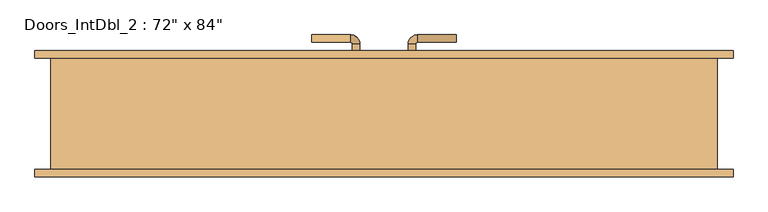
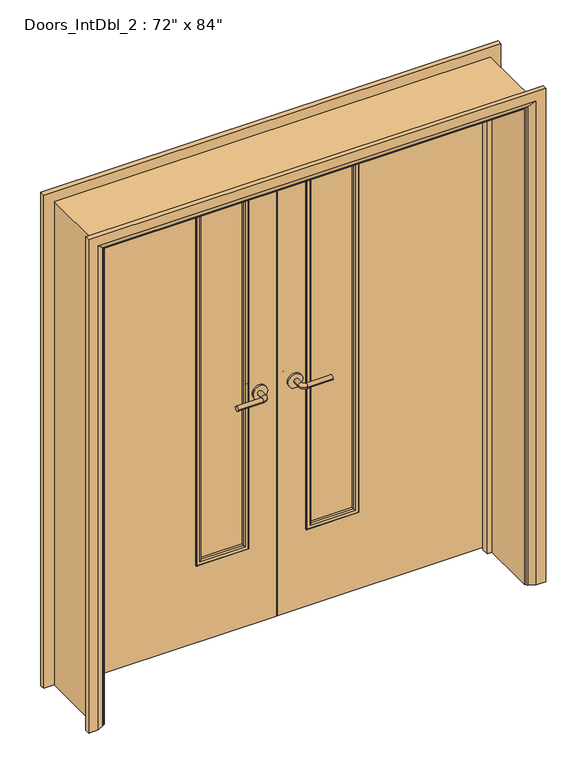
"""IFC4 building model written with IfcOpenShell, lengths in millimetres: door geometry."""

from ifc_helpers import new_model, si_unit, point, frame, frame_2d, origin, place, context, project, spatial, polyline, circle_curve, ellipse_curve, trimmed, segment, composite_curve, outline, extrude, faceted_brep, source, transform, mapped, element, save
from ifc_brep_helpers import plane_surface, cylinder_surface, revolved_surface, advanced_brep


def door_2df7c025(model_context):
    return source(origin(), model_context, "Body", "SolidModel", [
        advanced_brep(
        [(-65.0, 110.0, 1007.0), (-85.0, 110.0, 1007.0), (-65.0, 80.0, 1007.0), (-85.0, 80.0, 1007.0), (-90.0, 75.0, 1007.0), (-90.0, 55.0, 1007.0), (-195.0, 55.0, 1007.0), (-195.0, 75.0, 1007.0)],
        [
            (0, 1, circle_curve(frame((-75.0, 110.0, 1007.0), z_axis=(0.0, 1.0, 0.0), x_axis=(-1.0, 0.0, 0.0)), 10.0)),
            (1, 0, circle_curve(frame((-75.0, 110.0, 1007.0), z_axis=(0.0, 1.0, 0.0), x_axis=(-1.0, 0.0, 0.0)), 10.0)),
            (0, 2),
            (2, 3, circle_curve(frame((-75.0, 80.0, 1007.0), z_axis=(0.0, 1.0, 0.0), x_axis=(-1.0, 0.0, 0.0)), 10.0)),
            (3, 1),
            (3, 2, circle_curve(frame((-75.0, 80.0, 1007.0), z_axis=(0.0, 1.0, 0.0), x_axis=(-1.0, 0.0, 0.0)), 10.0)),
            (4, 3, circle_curve(frame((-90.0, 80.0, 1007.0), z_axis=(0.0, 0.0, 1.0), x_axis=(1.0, 0.0, 0.0)), 5.0)),
            (2, 5, circle_curve(frame((-90.0, 80.0, 1007.0), z_axis=(0.0, 0.0, -1.0), x_axis=(1.0, 0.0, 0.0)), 25.0)),
            (5, 4, circle_curve(frame((-90.0, 65.0, 1007.0), z_axis=(1.0, 0.0, 0.0), x_axis=(0.0, 1.0, 0.0)), 10.0)),
            (4, 5, circle_curve(frame((-90.0, 65.0, 1007.0), z_axis=(1.0, 0.0, 0.0), x_axis=(0.0, 1.0, 0.0)), 10.0)),
            (6, 7, circle_curve(frame((-195.0, 65.0, 1007.0), z_axis=(-1.0, 0.0, 0.0), x_axis=(0.0, 1.0, 0.0)), 10.0)),
            (7, 6, circle_curve(frame((-195.0, 65.0, 1007.0), z_axis=(-1.0, 0.0, 0.0), x_axis=(0.0, 1.0, 0.0)), 10.0)),
            (5, 6),
            (7, 4),
        ],
        [
            plane_surface(frame((-75.0, 110.0, 1007.0), z_axis=(0.0, 1.0, 0.0), x_axis=(0.0, 0.0, 1.0))),
            cylinder_surface(frame((-75.0, 110.0, 1007.0), z_axis=(0.0, 1.0, 0.0), x_axis=(-1.0, 0.0, 0.0)), 10.0),
            revolved_surface(trimmed(ellipse_curve(frame((-75.0, 80.0, 1007.0), z_axis=(0.0, 1.0, 0.0), x_axis=(-1.0, 0.0, 0.0)), 10.0, 10.0), [point((-65.0, 80.0, 1007.0))], [point((-85.0, 80.0, 1007.0))], True, "CARTESIAN"), (-90.0, 80.0, 1007.0), (0.0, 0.0, -1.0)),
            revolved_surface(trimmed(ellipse_curve(frame((-75.0, 80.0, 1007.0), z_axis=(0.0, 1.0, 0.0), x_axis=(-1.0, 0.0, 0.0)), 10.0, 10.0), [point((-85.0, 80.0, 1007.0))], [point((-65.0, 80.0, 1007.0))], True, "CARTESIAN"), (-90.0, 80.0, 1007.0), (0.0, 0.0, -1.0)),
            plane_surface(frame((-195.0, 65.0, 1007.0), z_axis=(-1.0, 0.0, 0.0), x_axis=(0.0, 0.0, 1.0))),
            cylinder_surface(frame((-90.0, 65.0, 1007.0), z_axis=(1.0, 0.0, 0.0), x_axis=(0.0, 1.0, 0.0)), 10.0),
        ],
        [
            (0, [[1, 2]]),
            (1, [[-1, 3, 4, 5]]),
            (1, [[-2, -5, 6, -3]]),
            (2, [[7, -4, 8, 9]]),
            (3, [[-8, -6, -7, 10]]),
            (4, [[11, 12]]),
            (5, [[-9, 13, -12, 14]]),
            (5, [[-10, -14, -11, -13]]),
        ],
    ),
        extrude(outline(composite_curve([segment(trimmed(circle_curve(frame_2d((1007.0, -72.5)), 30.0), [point((1007.0, -42.5))], [point((1007.0, -102.5))], False, "CARTESIAN"), True, "CONTINUOUS"), segment(trimmed(circle_curve(frame_2d((1007.0, -72.5)), 30.0), [point((1007.0, -102.5))], [point((1007.0, -42.5))], False, "CARTESIAN"), True, "CONTINUOUS")], self_intersect=False)), frame((0.0, 110.0, 0.0), z_axis=(0.0, 1.0, 0.0), x_axis=(0.0, 0.0, 1.0)), (0.0, 0.0, 1.0), 8.0),
        advanced_brep(
        [(-65.0, 158.0, 1007.0), (-85.0, 158.0, 1007.0), (-85.0, 188.0, 1007.0), (-65.0, 188.0, 1007.0), (-90.0, 193.0, 1007.0), (-90.0, 213.0, 1007.0), (-195.0, 213.0, 1007.0), (-195.0, 193.0, 1007.0)],
        [
            (0, 1, circle_curve(frame((-75.0, 158.0, 1007.0), z_axis=(0.0, -1.0, 0.0), x_axis=(-1.0, 0.0, 0.0)), 10.0)),
            (1, 0, circle_curve(frame((-75.0, 158.0, 1007.0), z_axis=(0.0, -1.0, 0.0), x_axis=(-1.0, 0.0, 0.0)), 10.0)),
            (1, 2),
            (2, 3, circle_curve(frame((-75.0, 188.0, 1007.0), z_axis=(0.0, -1.0, 0.0), x_axis=(-1.0, 0.0, 0.0)), 10.0)),
            (3, 0),
            (3, 2, circle_curve(frame((-75.0, 188.0, 1007.0), z_axis=(0.0, -1.0, 0.0), x_axis=(-1.0, 0.0, 0.0)), 10.0)),
            (4, 5, circle_curve(frame((-90.0, 203.0, 1007.0), z_axis=(1.0, 0.0, 0.0), x_axis=(0.0, -1.0, 0.0)), 10.0)),
            (5, 3, circle_curve(frame((-90.0, 188.0, 1007.0), z_axis=(0.0, 0.0, -1.0), x_axis=(1.0, 0.0, 0.0)), 25.0)),
            (2, 4, circle_curve(frame((-90.0, 188.0, 1007.0), z_axis=(0.0, 0.0, 1.0), x_axis=(1.0, 0.0, 0.0)), 5.0)),
            (5, 4, circle_curve(frame((-90.0, 203.0, 1007.0), z_axis=(1.0, 0.0, 0.0), x_axis=(0.0, -1.0, 0.0)), 10.0)),
            (6, 7, circle_curve(frame((-195.0, 203.0, 1007.0), z_axis=(-1.0, 0.0, 0.0), x_axis=(0.0, -1.0, 0.0)), 10.0)),
            (7, 6, circle_curve(frame((-195.0, 203.0, 1007.0), z_axis=(-1.0, 0.0, 0.0), x_axis=(0.0, -1.0, 0.0)), 10.0)),
            (4, 7),
            (6, 5),
        ],
        [
            plane_surface(frame((-75.0, 158.0, 1007.0), z_axis=(0.0, -1.0, 0.0), x_axis=(0.0, 0.0, 1.0))),
            cylinder_surface(frame((-75.0, 158.0, 1007.0), z_axis=(0.0, -1.0, 0.0), x_axis=(-1.0, 0.0, 0.0)), 10.0),
            revolved_surface(trimmed(ellipse_curve(frame((-75.0, 188.0, 1007.0), z_axis=(0.0, 1.0, 0.0), x_axis=(-1.0, 0.0, 0.0)), 10.0, 10.0), [point((-65.0, 188.0, 1007.0))], [point((-85.0, 188.0, 1007.0))], True, "CARTESIAN"), (-90.0, 188.0, 1007.0), (0.0, 0.0, -1.0)),
            revolved_surface(trimmed(ellipse_curve(frame((-75.0, 188.0, 1007.0), z_axis=(0.0, 1.0, 0.0), x_axis=(-1.0, 0.0, 0.0)), 10.0, 10.0), [point((-85.0, 188.0, 1007.0))], [point((-65.0, 188.0, 1007.0))], True, "CARTESIAN"), (-90.0, 188.0, 1007.0), (0.0, 0.0, -1.0)),
            plane_surface(frame((-195.0, 203.0, 1007.0), z_axis=(-1.0, 0.0, 0.0), x_axis=(0.0, 0.0, 1.0))),
            cylinder_surface(frame((-90.0, 203.0, 1007.0), z_axis=(1.0, 0.0, 0.0), x_axis=(0.0, -1.0, 0.0)), 10.0),
        ],
        [
            (0, [[1, 2]]),
            (1, [[3, 4, 5, -2]]),
            (1, [[-5, 6, -3, -1]]),
            (2, [[7, 8, -4, 9]]),
            (3, [[10, -9, -6, -8]]),
            (4, [[11, 12]]),
            (5, [[13, -11, 14, -7]]),
            (5, [[-14, -12, -13, -10]]),
        ],
    ),
        extrude(outline(composite_curve([segment(trimmed(circle_curve(frame_2d((1007.0, -72.5)), 30.0), [point((1007.0, -42.5))], [point((1007.0, -102.5))], False, "CARTESIAN"), True, "CONTINUOUS"), segment(trimmed(circle_curve(frame_2d((1007.0, -72.5)), 30.0), [point((1007.0, -102.5))], [point((1007.0, -42.5))], False, "CARTESIAN"), True, "CONTINUOUS")], self_intersect=False)), frame((0.0, 150.0, 0.0), z_axis=(0.0, 1.0, 0.0), x_axis=(0.0, 0.0, 1.0)), (0.0, 0.0, 1.0), 8.0),
        advanced_brep(
        [(65.0, 110.0, 1007.0), (85.0, 110.0, 1007.0), (85.0, 80.0, 1007.0), (65.0, 80.0, 1007.0), (90.0, 75.0, 1007.0), (90.0, 55.0, 1007.0), (195.0, 55.0, 1007.0), (195.0, 75.0, 1007.0)],
        [
            (0, 1, circle_curve(frame((75.0, 110.0, 1007.0), z_axis=(0.0, 1.0, 0.0), x_axis=(1.0, 0.0, 0.0)), 10.0)),
            (1, 0, circle_curve(frame((75.0, 110.0, 1007.0), z_axis=(0.0, 1.0, 0.0), x_axis=(1.0, 0.0, 0.0)), 10.0)),
            (1, 2),
            (2, 3, circle_curve(frame((75.0, 80.0, 1007.0), z_axis=(0.0, 1.0, 0.0), x_axis=(1.0, 0.0, 0.0)), 10.0)),
            (3, 0),
            (3, 2, circle_curve(frame((75.0, 80.0, 1007.0), z_axis=(0.0, 1.0, 0.0), x_axis=(1.0, 0.0, 0.0)), 10.0)),
            (4, 5, circle_curve(frame((90.0, 65.0, 1007.0), z_axis=(-1.0, 0.0, 0.0), x_axis=(0.0, 1.0, 0.0)), 10.0)),
            (5, 3, circle_curve(frame((90.0, 80.0, 1007.0), z_axis=(0.0, 0.0, -1.0), x_axis=(-1.0, 0.0, 0.0)), 25.0)),
            (2, 4, circle_curve(frame((90.0, 80.0, 1007.0), z_axis=(0.0, 0.0, 1.0), x_axis=(-1.0, 0.0, 0.0)), 5.0)),
            (5, 4, circle_curve(frame((90.0, 65.0, 1007.0), z_axis=(-1.0, 0.0, 0.0), x_axis=(0.0, 1.0, 0.0)), 10.0)),
            (6, 7, circle_curve(frame((195.0, 65.0, 1007.0), z_axis=(1.0, 0.0, 0.0), x_axis=(0.0, 1.0, 0.0)), 10.0)),
            (7, 6, circle_curve(frame((195.0, 65.0, 1007.0), z_axis=(1.0, 0.0, 0.0), x_axis=(0.0, 1.0, 0.0)), 10.0)),
            (4, 7),
            (6, 5),
        ],
        [
            plane_surface(frame((75.0, 110.0, 1007.0), z_axis=(0.0, 1.0, 0.0), x_axis=(0.0, 0.0, 1.0))),
            cylinder_surface(frame((75.0, 110.0, 1007.0), z_axis=(0.0, 1.0, 0.0), x_axis=(1.0, 0.0, 0.0)), 10.0),
            revolved_surface(trimmed(ellipse_curve(frame((75.0, 80.0, 1007.0), z_axis=(0.0, -1.0, 0.0), x_axis=(1.0, 0.0, 0.0)), 10.0, 10.0), [point((65.0, 80.0, 1007.0))], [point((85.0, 80.0, 1007.0))], True, "CARTESIAN"), (90.0, 80.0, 1007.0), (0.0, 0.0, -1.0)),
            revolved_surface(trimmed(ellipse_curve(frame((75.0, 80.0, 1007.0), z_axis=(0.0, -1.0, 0.0), x_axis=(1.0, 0.0, 0.0)), 10.0, 10.0), [point((85.0, 80.0, 1007.0))], [point((65.0, 80.0, 1007.0))], True, "CARTESIAN"), (90.0, 80.0, 1007.0), (0.0, 0.0, -1.0)),
            plane_surface(frame((195.0, 65.0, 1007.0), z_axis=(1.0, 0.0, 0.0), x_axis=(0.0, 0.0, 1.0))),
            cylinder_surface(frame((90.0, 65.0, 1007.0), z_axis=(-1.0, 0.0, 0.0), x_axis=(0.0, 1.0, 0.0)), 10.0),
        ],
        [
            (0, [[1, 2]]),
            (1, [[3, 4, 5, -2]]),
            (1, [[-5, 6, -3, -1]]),
            (2, [[7, 8, -4, 9]]),
            (3, [[10, -9, -6, -8]]),
            (4, [[11, 12]]),
            (5, [[13, -11, 14, -7]]),
            (5, [[-14, -12, -13, -10]]),
        ],
    ),
        extrude(outline(composite_curve([segment(trimmed(circle_curve(frame_2d((1007.0, 72.5)), 30.0), [point((1007.0, 42.5))], [point((1007.0, 102.5))], False, "CARTESIAN"), True, "CONTINUOUS"), segment(trimmed(circle_curve(frame_2d((1007.0, 72.5)), 30.0), [point((1007.0, 102.5))], [point((1007.0, 42.5))], False, "CARTESIAN"), True, "CONTINUOUS")], self_intersect=False)), frame((0.0, 110.0, 0.0), z_axis=(0.0, 1.0, 0.0), x_axis=(0.0, 0.0, 1.0)), (0.0, 0.0, 1.0), 8.0),
        advanced_brep(
        [(65.0, 158.0, 1007.0), (85.0, 158.0, 1007.0), (65.0, 188.0, 1007.0), (85.0, 188.0, 1007.0), (90.0, 193.0, 1007.0), (90.0, 213.0, 1007.0), (195.0, 213.0, 1007.0), (195.0, 193.0, 1007.0)],
        [
            (0, 1, circle_curve(frame((75.0, 158.0, 1007.0), z_axis=(0.0, -1.0, 0.0), x_axis=(1.0, 0.0, 0.0)), 10.0)),
            (1, 0, circle_curve(frame((75.0, 158.0, 1007.0), z_axis=(0.0, -1.0, 0.0), x_axis=(1.0, 0.0, 0.0)), 10.0)),
            (0, 2),
            (2, 3, circle_curve(frame((75.0, 188.0, 1007.0), z_axis=(0.0, -1.0, 0.0), x_axis=(1.0, 0.0, 0.0)), 10.0)),
            (3, 1),
            (3, 2, circle_curve(frame((75.0, 188.0, 1007.0), z_axis=(0.0, -1.0, 0.0), x_axis=(1.0, 0.0, 0.0)), 10.0)),
            (4, 3, circle_curve(frame((90.0, 188.0, 1007.0), z_axis=(0.0, 0.0, 1.0), x_axis=(-1.0, 0.0, 0.0)), 5.0)),
            (2, 5, circle_curve(frame((90.0, 188.0, 1007.0), z_axis=(0.0, 0.0, -1.0), x_axis=(-1.0, 0.0, 0.0)), 25.0)),
            (5, 4, circle_curve(frame((90.0, 203.0, 1007.0), z_axis=(-1.0, 0.0, 0.0), x_axis=(0.0, -1.0, 0.0)), 10.0)),
            (4, 5, circle_curve(frame((90.0, 203.0, 1007.0), z_axis=(-1.0, 0.0, 0.0), x_axis=(0.0, -1.0, 0.0)), 10.0)),
            (6, 7, circle_curve(frame((195.0, 203.0, 1007.0), z_axis=(1.0, 0.0, 0.0), x_axis=(0.0, -1.0, 0.0)), 10.0)),
            (7, 6, circle_curve(frame((195.0, 203.0, 1007.0), z_axis=(1.0, 0.0, 0.0), x_axis=(0.0, -1.0, 0.0)), 10.0)),
            (5, 6),
            (7, 4),
        ],
        [
            plane_surface(frame((75.0, 158.0, 1007.0), z_axis=(0.0, -1.0, 0.0), x_axis=(0.0, 0.0, 1.0))),
            cylinder_surface(frame((75.0, 158.0, 1007.0), z_axis=(0.0, -1.0, 0.0), x_axis=(1.0, 0.0, 0.0)), 10.0),
            revolved_surface(trimmed(ellipse_curve(frame((75.0, 188.0, 1007.0), z_axis=(0.0, -1.0, 0.0), x_axis=(1.0, 0.0, 0.0)), 10.0, 10.0), [point((65.0, 188.0, 1007.0))], [point((85.0, 188.0, 1007.0))], True, "CARTESIAN"), (90.0, 188.0, 1007.0), (0.0, 0.0, -1.0)),
            revolved_surface(trimmed(ellipse_curve(frame((75.0, 188.0, 1007.0), z_axis=(0.0, -1.0, 0.0), x_axis=(1.0, 0.0, 0.0)), 10.0, 10.0), [point((85.0, 188.0, 1007.0))], [point((65.0, 188.0, 1007.0))], True, "CARTESIAN"), (90.0, 188.0, 1007.0), (0.0, 0.0, -1.0)),
            plane_surface(frame((195.0, 203.0, 1007.0), z_axis=(1.0, 0.0, 0.0), x_axis=(0.0, 0.0, 1.0))),
            cylinder_surface(frame((90.0, 203.0, 1007.0), z_axis=(-1.0, 0.0, 0.0), x_axis=(0.0, -1.0, 0.0)), 10.0),
        ],
        [
            (0, [[1, 2]]),
            (1, [[-1, 3, 4, 5]]),
            (1, [[-2, -5, 6, -3]]),
            (2, [[7, -4, 8, 9]]),
            (3, [[-8, -6, -7, 10]]),
            (4, [[11, 12]]),
            (5, [[-9, 13, -12, 14]]),
            (5, [[-10, -14, -11, -13]]),
        ],
    ),
        extrude(outline(composite_curve([segment(trimmed(circle_curve(frame_2d((1007.0, 72.5)), 30.0), [point((1007.0, 42.5))], [point((1007.0, 102.5))], False, "CARTESIAN"), True, "CONTINUOUS"), segment(trimmed(circle_curve(frame_2d((1007.0, 72.5)), 30.0), [point((1007.0, 102.5))], [point((1007.0, 42.5))], False, "CARTESIAN"), True, "CONTINUOUS")], self_intersect=False)), frame((0.0, 150.0, 0.0), z_axis=(0.0, 1.0, 0.0), x_axis=(0.0, 0.0, 1.0)), (0.0, 0.0, 1.0), 8.0),
        advanced_brep(
        [(-940.0, -170.0, 0.0), (-940.0, -150.0, 0.0), (-870.0, -150.0, 0.0), (-874.0, -156.0, 0.0), (-900.0, -170.0, 0.0), (-940.0, -170.0, 2145.0), (-940.0, -150.0, 2145.0), (940.0, -150.0, 2145.0), (940.0, -150.0, 0.0), (870.0, -150.0, 0.0), (870.0, -150.0, 2075.0), (-870.0, -150.0, 2075.0), (-874.0, -156.0, 2079.0), (-900.0, -170.0, 2105.0), (900.0, -170.0, 2105.0), (900.0, -170.0, 0.0), (940.0, -170.0, 0.0), (940.0, -170.0, 2145.0), (874.0, -156.0, 0.0), (874.0, -156.0, 2079.0)],
        [
            (0, 1),
            (1, 2),
            (2, 3, circle_curve(frame((-878.0, -149.0, 0.0), z_axis=(0.0, 0.0, -1.0), x_axis=(-1.0, 0.0, 0.0)), 8.0622577)),
            (3, 4),
            (4, 0),
            (0, 5),
            (5, 6),
            (6, 1),
            (6, 7),
            (7, 8),
            (8, 9),
            (9, 10),
            (10, 11),
            (11, 2),
            (11, 12, ellipse_curve(frame((-878.0, -149.0, 2083.0), z_axis=(-0.7071067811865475, 0.0, -0.7071067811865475), x_axis=(0.7071067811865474, 0.0, -0.7071067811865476)), 11.4017543, 8.0622577)),
            (12, 3),
            (12, 13),
            (13, 4),
            (13, 14),
            (14, 15),
            (15, 16),
            (16, 17),
            (17, 5),
            (7, 17),
            (16, 8),
            (15, 18),
            (18, 9, circle_curve(frame((878.0, -149.0, 0.0), z_axis=(0.0, 0.0, -1.0), x_axis=(1.0, 0.0, 0.0)), 8.0622577)),
            (19, 10, ellipse_curve(frame((878.0, -149.0, 2083.0), z_axis=(0.7071067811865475, 0.0, -0.7071067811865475), x_axis=(0.7071067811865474, 0.0, 0.7071067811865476)), 11.4017543, 8.0622577)),
            (18, 19),
            (14, 19),
            (19, 12),
        ],
        [
            plane_surface(frame((-870.0, -150.0, 0.0), z_axis=(0.0, 0.0, -1.0), x_axis=(0.0, -1.0, 0.0))),
            plane_surface(frame((-940.0, -170.0, 0.0), z_axis=(-1.0, 0.0, 0.0), x_axis=(0.0, 0.0, 1.0))),
            plane_surface(frame((-940.0, -150.0, 0.0), z_axis=(0.0, 1.0, 0.0), x_axis=(0.0, 0.0, 1.0))),
            cylinder_surface(frame((-878.0, -149.0, 0.0), z_axis=(0.0, 0.0, -1.0), x_axis=(-1.0, 0.0, 0.0)), 8.0622577),
            plane_surface(frame((-874.0, -156.0, 0.0), z_axis=(0.4740998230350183, -0.8804710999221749, 0.0), x_axis=(0.0, 0.0, 1.0))),
            plane_surface(frame((-900.0, -170.0, 0.0), z_axis=(0.0, -1.0, 0.0), x_axis=(0.0, 0.0, 1.0))),
            plane_surface(frame((940.0, -170.0, 2145.0), z_axis=(1.0, 0.0, 0.0), x_axis=(0.0, 0.0, -1.0))),
            plane_surface(frame((870.0, -150.0, 0.0), z_axis=(0.0, 0.0, -1.0), x_axis=(0.0, -1.0, 0.0))),
            cylinder_surface(frame((878.0, -149.0, 2075.0), z_axis=(0.0, 0.0, 1.0), x_axis=(1.0, 0.0, 0.0)), 8.0622577),
            plane_surface(frame((874.0, -156.0, 2079.0), z_axis=(-0.4740998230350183, -0.8804710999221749, 0.0), x_axis=(0.0, 0.0, -1.0))),
            plane_surface(frame((-940.0, -170.0, 2145.0), z_axis=(0.0, 0.0, 1.0), x_axis=(1.0, 0.0, 0.0))),
            cylinder_surface(frame((-870.0, -149.0, 2083.0), z_axis=(-1.0, 0.0, 0.0), x_axis=(0.0, 0.0, 1.0)), 8.0622577),
            plane_surface(frame((-874.0, -156.0, 2079.0), z_axis=(0.0, -0.8804710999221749, -0.4740998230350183), x_axis=(1.0, 0.0, 0.0))),
        ],
        [
            (0, [[1, 2, 3, 4, 5]]),
            (1, [[-1, 6, 7, 8]]),
            (2, [[-2, -8, 9, 10, 11, 12, 13, 14]]),
            (3, [[-3, -14, 15, 16]]),
            (4, [[-4, -16, 17, 18]]),
            (5, [[-5, -18, 19, 20, 21, 22, 23, -6]]),
            (6, [[24, -22, 25, -10]]),
            (7, [[-21, 26, 27, -11, -25]]),
            (8, [[28, -12, -27, 29]]),
            (9, [[30, -29, -26, -20]]),
            (10, [[-7, -23, -24, -9]]),
            (11, [[-15, -13, -28, 31]]),
            (12, [[-17, -31, -30, -19]]),
        ],
    ),
        advanced_brep(
        [(940.0, 170.0, 0.0), (940.0, 150.0, 0.0), (870.0, 150.0, 0.0), (874.0, 156.0, 0.0), (900.0, 170.0, 0.0), (940.0, 170.0, 2145.0), (940.0, 150.0, 2145.0), (-940.0, 150.0, 2145.0), (-940.0, 150.0, 0.0), (-870.0, 150.0, 0.0), (-870.0, 150.0, 2075.0), (870.0, 150.0, 2075.0), (874.0, 156.0, 2079.0), (900.0, 170.0, 2105.0), (-900.0, 170.0, 2105.0), (-900.0, 170.0, 0.0), (-940.0, 170.0, 0.0), (-940.0, 170.0, 2145.0), (-874.0, 156.0, 0.0), (-874.0, 156.0, 2079.0)],
        [
            (0, 1),
            (1, 2),
            (2, 3, circle_curve(frame((878.0, 149.0, 0.0), z_axis=(0.0, 0.0, -1.0), x_axis=(1.0, 0.0, 0.0)), 8.0622577)),
            (3, 4),
            (4, 0),
            (0, 5),
            (5, 6),
            (6, 1),
            (6, 7),
            (7, 8),
            (8, 9),
            (9, 10),
            (10, 11),
            (11, 2),
            (11, 12, ellipse_curve(frame((878.0, 149.0, 2083.0), z_axis=(0.7071067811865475, 0.0, -0.7071067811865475), x_axis=(-0.7071067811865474, 0.0, -0.7071067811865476)), 11.4017543, 8.0622577)),
            (12, 3),
            (12, 13),
            (13, 4),
            (13, 14),
            (14, 15),
            (15, 16),
            (16, 17),
            (17, 5),
            (7, 17),
            (16, 8),
            (15, 18),
            (18, 9, circle_curve(frame((-878.0, 149.0, 0.0), z_axis=(0.0, 0.0, -1.0), x_axis=(-1.0, 0.0, 0.0)), 8.0622577)),
            (19, 10, ellipse_curve(frame((-878.0, 149.0, 2083.0), z_axis=(-0.7071067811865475, 0.0, -0.7071067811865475), x_axis=(-0.7071067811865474, 0.0, 0.7071067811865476)), 11.4017543, 8.0622577)),
            (18, 19),
            (14, 19),
            (19, 12),
        ],
        [
            plane_surface(frame((870.0, 150.0, 0.0), z_axis=(0.0, 0.0, -1.0), x_axis=(0.0, -1.0, 0.0))),
            plane_surface(frame((940.0, 170.0, 0.0), z_axis=(1.0, 0.0, 0.0), x_axis=(0.0, 0.0, 1.0))),
            plane_surface(frame((940.0, 150.0, 0.0), z_axis=(0.0, -1.0, 0.0), x_axis=(0.0, 0.0, 1.0))),
            cylinder_surface(frame((878.0, 149.0, 0.0), z_axis=(0.0, 0.0, -1.0), x_axis=(1.0, 0.0, 0.0)), 8.0622577),
            plane_surface(frame((874.0, 156.0, 0.0), z_axis=(-0.4740998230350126, 0.8804710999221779, 0.0), x_axis=(0.0, 0.0, 1.0))),
            plane_surface(frame((900.0, 170.0, 0.0), z_axis=(0.0, 1.0, 0.0), x_axis=(0.0, 0.0, 1.0))),
            plane_surface(frame((-940.0, 170.0, 2145.0), z_axis=(-1.0, 0.0, 0.0), x_axis=(0.0, 0.0, -1.0))),
            plane_surface(frame((-870.0, 150.0, 0.0), z_axis=(0.0, 0.0, -1.0), x_axis=(0.0, -1.0, 0.0))),
            cylinder_surface(frame((-878.0, 149.0, 2075.0), z_axis=(0.0, 0.0, 1.0), x_axis=(-1.0, 0.0, 0.0)), 8.0622577),
            plane_surface(frame((-874.0, 156.0, 2079.0), z_axis=(0.4740998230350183, 0.8804710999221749, 0.0), x_axis=(0.0, 0.0, -1.0))),
            plane_surface(frame((940.0, 170.0, 2145.0), z_axis=(0.0, 0.0, 1.0), x_axis=(-1.0, 0.0, 0.0))),
            cylinder_surface(frame((870.0, 149.0, 2083.0), z_axis=(1.0, 0.0, 0.0), x_axis=(0.0, 0.0, 1.0)), 8.0622577),
            plane_surface(frame((874.0, 156.0, 2079.0), z_axis=(0.0, 0.8804710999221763, -0.4740998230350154), x_axis=(-1.0, 0.0, 0.0))),
        ],
        [
            (0, [[1, 2, 3, 4, 5]]),
            (1, [[-1, 6, 7, 8]]),
            (2, [[-2, -8, 9, 10, 11, 12, 13, 14]]),
            (3, [[-3, -14, 15, 16]]),
            (4, [[-4, -16, 17, 18]]),
            (5, [[-5, -18, 19, 20, 21, 22, 23, -6]]),
            (6, [[24, -22, 25, -10]]),
            (7, [[-21, 26, 27, -11, -25]]),
            (8, [[28, -12, -27, 29]]),
            (9, [[30, -29, -26, -20]]),
            (10, [[-7, -23, -24, -9]]),
            (11, [[-15, -13, -28, 31]]),
            (12, [[-17, -31, -30, -19]]),
        ],
    ),
        faceted_brep([(-846.0, 115.0, 0.0), (-846.0, 83.0, 0.0), (-865.0, 83.0, 0.0), (-865.0, 115.0, 0.0), (-846.0, 115.0, 2051.0), (-846.0, 83.0, 2051.0), (-865.0, 83.0, 2070.0), (-865.0, 115.0, 2070.0), (846.0, 115.0, 0.0), (865.0, 115.0, 0.0), (865.0, 83.0, 0.0), (846.0, 83.0, 0.0), (846.0, 115.0, 2051.0), (865.0, 115.0, 2070.0), (865.0, 83.0, 2070.0), (846.0, 83.0, 2051.0)], [[[0, 1, 2, 3]], [[1, 0, 4, 5]], [[2, 1, 5, 6]], [[3, 2, 6, 7]], [[0, 3, 7, 4]], [[8, 9, 10, 11]], [[12, 13, 9, 8]], [[13, 14, 10, 9]], [[14, 15, 11, 10]], [[15, 12, 8, 11]], [[5, 4, 12, 15]], [[6, 5, 15, 14]], [[7, 6, 14, 13]], [[4, 7, 13, 12]]]),
        extrude(outline(polyline([(2102.0, -897.0), (0.0, -897.0), (0.0, -865.0), (2070.0, -865.0), (2070.0, 865.0), (0.0, 865.0), (0.0, 897.0), (2102.0, 897.0), (2102.0, -897.0)])), frame((0.0, -150.0, 0.0), z_axis=(0.0, 1.0, 0.0), x_axis=(0.0, 0.0, 1.0)), (0.0, 0.0, 1.0), 300.0),
        extrude(outline(polyline([(326.5, 128.0), (126.5, 128.0), (126.5, 140.0), (326.5, 140.0), (326.5, 128.0)])), frame((0.0, 0.0, 350.0), z_axis=(0.0, 0.0, 1.0), x_axis=(1.0, 0.0, 0.0)), (0.0, 0.0, 1.0), 1535.0),
        extrude(outline(polyline([(-126.5, 128.0), (-326.5, 128.0), (-326.5, 140.0), (-126.5, 140.0), (-126.5, 128.0)])), frame((0.0, 0.0, 350.0), z_axis=(0.0, 0.0, 1.0), x_axis=(1.0, 0.0, 0.0)), (0.0, 0.0, 1.0), 1535.0),
        extrude(outline(polyline([(5.753223, -862.0), (5.753223, -1.5), (2067.0, -1.5), (2067.0, -862.0), (5.753223, -862.0)]), holes=[polyline([(1885.0, -326.5), (1885.0, -126.5), (350.0, -126.5), (350.0, -326.5), (1885.0, -326.5)])]), frame((0.0, 118.0, 0.0), z_axis=(0.0, 1.0, 0.0), x_axis=(0.0, 0.0, 1.0)), (0.0, 0.0, 1.0), 32.0),
        extrude(outline(polyline([(5.753223, 862.0), (2067.0, 862.0), (2067.0, 1.5), (5.753223, 1.5), (5.753223, 862.0)]), holes=[polyline([(1885.0, 126.5), (1885.0, 326.5), (350.0, 326.5), (350.0, 126.5), (1885.0, 126.5)])]), frame((0.0, 118.0, 0.0), z_axis=(0.0, 1.0, 0.0), x_axis=(0.0, 0.0, 1.0)), (0.0, 0.0, 1.0), 32.0),
        advanced_brep(
        [(326.5, 128.0, 1885.0), (326.5, 118.0, 1885.0), (326.5, 118.0, 350.0), (326.5, 128.0, 350.0), (314.5, 117.0, 1873.0), (314.5, 128.0, 1873.0), (314.5, 128.0, 362.0), (314.5, 117.0, 362.0), (319.5, 112.0, 1878.0), (319.5, 112.0, 357.0), (334.5, 114.0, 1893.0), (332.5, 112.0, 1891.0), (332.5, 112.0, 344.0), (334.5, 114.0, 342.0), (334.5, 118.0, 1893.0), (334.5, 118.0, 342.0), (126.5, 118.0, 350.0), (126.5, 128.0, 350.0), (138.5, 128.0, 362.0), (138.5, 117.0, 362.0), (133.5, 112.0, 357.0), (120.5, 112.0, 344.0), (118.5, 114.0, 342.0), (118.5, 118.0, 342.0), (126.5, 118.0, 1885.0), (126.5, 128.0, 1885.0), (138.5, 128.0, 1873.0), (138.5, 117.0, 1873.0), (133.5, 112.0, 1878.0), (120.5, 112.0, 1891.0), (118.5, 114.0, 1893.0), (118.5, 118.0, 1893.0)],
        [
            (0, 1),
            (1, 2),
            (2, 3),
            (3, 0),
            (4, 5),
            (5, 6),
            (6, 7),
            (7, 4),
            (8, 4, ellipse_curve(frame((319.5, 117.0, 1878.0), z_axis=(0.7071067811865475, 0.0, -0.7071067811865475), x_axis=(0.7071067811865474, 0.0, 0.7071067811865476)), 7.0710678, 5.0)),
            (7, 9, ellipse_curve(frame((319.5, 117.0, 357.0), z_axis=(0.7071067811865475, 0.0, 0.7071067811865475), x_axis=(-0.7071067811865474, 0.0, 0.7071067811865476)), 7.0710678, 5.0)),
            (9, 8),
            (10, 11, ellipse_curve(frame((332.5, 114.0, 1891.0), z_axis=(0.7071067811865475, 0.0, -0.7071067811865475), x_axis=(0.7071067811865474, 0.0, 0.7071067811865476)), 2.8284271, 2.0)),
            (11, 12),
            (12, 13, ellipse_curve(frame((332.5, 114.0, 344.0), z_axis=(0.7071067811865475, 0.0, 0.7071067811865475), x_axis=(-0.7071067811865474, 0.0, 0.7071067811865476)), 2.8284271, 2.0)),
            (13, 10),
            (14, 10),
            (13, 15),
            (15, 14),
            (2, 16),
            (16, 17),
            (17, 3),
            (6, 18),
            (18, 19),
            (19, 7),
            (19, 20, ellipse_curve(frame((133.5, 117.0, 357.0), z_axis=(0.7071067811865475, 0.0, -0.7071067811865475), x_axis=(0.7071067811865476, 0.0, 0.7071067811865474)), 7.0710678, 5.0)),
            (20, 9),
            (12, 21),
            (21, 22, ellipse_curve(frame((120.5, 114.0, 344.0), z_axis=(0.7071067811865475, 0.0, -0.7071067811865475), x_axis=(0.7071067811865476, 0.0, 0.7071067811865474)), 2.8284271, 2.0)),
            (22, 13),
            (22, 23),
            (23, 15),
            (16, 24),
            (24, 25),
            (25, 17),
            (18, 26),
            (26, 27),
            (27, 19),
            (27, 28, ellipse_curve(frame((133.5, 117.0, 1878.0), z_axis=(-0.7071067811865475, 0.0, -0.7071067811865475), x_axis=(0.7071067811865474, 0.0, -0.7071067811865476)), 7.0710678, 5.0)),
            (28, 20),
            (21, 29),
            (29, 30, ellipse_curve(frame((120.5, 114.0, 1891.0), z_axis=(-0.7071067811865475, 0.0, -0.7071067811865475), x_axis=(0.7071067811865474, 0.0, -0.7071067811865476)), 2.8284271, 2.0)),
            (30, 22),
            (30, 31),
            (31, 23),
            (31, 14),
            (1, 24),
            (0, 25),
            (5, 26),
            (4, 27),
            (8, 28),
            (11, 29),
            (10, 30),
        ],
        [
            plane_surface(frame((326.5, 118.0, 1885.0), z_axis=(1.0, 0.0, 0.0), x_axis=(0.0, 0.0, -1.0))),
            plane_surface(frame((314.5, 128.0, 1873.0), z_axis=(-1.0, 0.0, 0.0), x_axis=(0.0, 0.0, -1.0))),
            cylinder_surface(frame((319.5, 117.0, 1885.0), z_axis=(0.0, 0.0, 1.0), x_axis=(1.0, 0.0, 0.0)), 5.0),
            cylinder_surface(frame((332.5, 114.0, 1885.0), z_axis=(0.0, 0.0, 1.0), x_axis=(1.0, 0.0, 0.0)), 2.0),
            plane_surface(frame((334.5, 114.0, 1893.0), z_axis=(1.0, 0.0, 0.0), x_axis=(0.0, 0.0, -1.0))),
            plane_surface(frame((326.5, 118.0, 350.0), z_axis=(0.0, 0.0, -1.0), x_axis=(-1.0, 0.0, 0.0))),
            plane_surface(frame((314.5, 128.0, 362.0), z_axis=(0.0, 0.0, 1.0), x_axis=(-1.0, 0.0, 0.0))),
            cylinder_surface(frame((326.5, 117.0, 357.0), z_axis=(1.0, 0.0, 0.0), x_axis=(0.0, 0.0, -1.0)), 5.0),
            cylinder_surface(frame((326.5, 114.0, 344.0), z_axis=(1.0, 0.0, 0.0), x_axis=(0.0, 0.0, -1.0)), 2.0),
            plane_surface(frame((334.5, 114.0, 342.0), z_axis=(0.0, 0.0, -1.0), x_axis=(-1.0, 0.0, 0.0))),
            plane_surface(frame((126.5, 118.0, 350.0), z_axis=(-1.0, 0.0, 0.0), x_axis=(0.0, 0.0, 1.0))),
            plane_surface(frame((138.5, 128.0, 362.0), z_axis=(1.0, 0.0, 0.0), x_axis=(0.0, 0.0, 1.0))),
            cylinder_surface(frame((133.5, 117.0, 350.0), z_axis=(0.0, 0.0, -1.0), x_axis=(-1.0, 0.0, 0.0)), 5.0),
            cylinder_surface(frame((120.5, 114.0, 350.0), z_axis=(0.0, 0.0, -1.0), x_axis=(-1.0, 0.0, 0.0)), 2.0),
            plane_surface(frame((118.5, 114.0, 342.0), z_axis=(-1.0, 0.0, 0.0), x_axis=(0.0, 0.0, 1.0))),
            plane_surface(frame((118.5, 118.0, 1893.0), z_axis=(0.0, 1.0, 0.0), x_axis=(1.0, 0.0, 0.0))),
            plane_surface(frame((126.5, 118.0, 1885.0), z_axis=(0.0, 0.0, 1.0), x_axis=(1.0, 0.0, 0.0))),
            plane_surface(frame((126.5, 128.0, 1885.0), z_axis=(0.0, 1.0, 0.0), x_axis=(1.0, 0.0, 0.0))),
            plane_surface(frame((138.5, 128.0, 1873.0), z_axis=(0.0, 0.0, -1.0), x_axis=(1.0, 0.0, 0.0))),
            cylinder_surface(frame((126.5, 117.0, 1878.0), z_axis=(-1.0, 0.0, 0.0), x_axis=(0.0, 0.0, 1.0)), 5.0),
            plane_surface(frame((133.5, 112.0, 1878.0), z_axis=(0.0, -1.0, 0.0), x_axis=(1.0, 0.0, 0.0))),
            cylinder_surface(frame((126.5, 114.0, 1891.0), z_axis=(-1.0, 0.0, 0.0), x_axis=(0.0, 0.0, 1.0)), 2.0),
            plane_surface(frame((118.5, 114.0, 1893.0), z_axis=(0.0, 0.0, 1.0), x_axis=(1.0, 0.0, 0.0))),
        ],
        [
            (0, [[1, 2, 3, 4]]),
            (1, [[5, 6, 7, 8]]),
            (2, [[9, -8, 10, 11]]),
            (3, [[12, 13, 14, 15]]),
            (4, [[16, -15, 17, 18]]),
            (5, [[-3, 19, 20, 21]]),
            (6, [[-7, 22, 23, 24]]),
            (7, [[-10, -24, 25, 26]]),
            (8, [[-14, 27, 28, 29]]),
            (9, [[-17, -29, 30, 31]]),
            (10, [[-20, 32, 33, 34]]),
            (11, [[-23, 35, 36, 37]]),
            (12, [[-25, -37, 38, 39]]),
            (13, [[-28, 40, 41, 42]]),
            (14, [[-30, -42, 43, 44]]),
            (15, [[-31, -44, 45, -18], [46, -32, -19, -2]]),
            (16, [[-33, -46, -1, 47]]),
            (17, [[-21, -34, -47, -4], [48, -35, -22, -6]]),
            (18, [[-36, -48, -5, 49]]),
            (19, [[-38, -49, -9, 50]]),
            (20, [[51, -40, -27, -13], [-26, -39, -50, -11]]),
            (21, [[-41, -51, -12, 52]]),
            (22, [[-43, -52, -16, -45]]),
        ],
    ),
        advanced_brep(
        [(-326.5, 128.0, 350.0), (-326.5, 118.0, 350.0), (-326.5, 118.0, 1885.0), (-326.5, 128.0, 1885.0), (-314.5, 117.0, 362.0), (-314.5, 128.0, 362.0), (-314.5, 128.0, 1873.0), (-314.5, 117.0, 1873.0), (-319.5, 112.0, 357.0), (-319.5, 112.0, 1878.0), (-334.5, 114.0, 342.0), (-332.5, 112.0, 344.0), (-332.5, 112.0, 1891.0), (-334.5, 114.0, 1893.0), (-334.5, 118.0, 342.0), (-334.5, 118.0, 1893.0), (-126.5, 118.0, 1885.0), (-126.5, 128.0, 1885.0), (-138.5, 128.0, 1873.0), (-138.5, 117.0, 1873.0), (-133.5, 112.0, 1878.0), (-120.5, 112.0, 1891.0), (-118.5, 114.0, 1893.0), (-118.5, 118.0, 1893.0), (-126.5, 118.0, 350.0), (-126.5, 128.0, 350.0), (-138.5, 128.0, 362.0), (-138.5, 117.0, 362.0), (-133.5, 112.0, 357.0), (-120.5, 112.0, 344.0), (-118.5, 114.0, 342.0), (-118.5, 118.0, 342.0)],
        [
            (0, 1),
            (1, 2),
            (2, 3),
            (3, 0),
            (4, 5),
            (5, 6),
            (6, 7),
            (7, 4),
            (8, 4, ellipse_curve(frame((-319.5, 117.0, 357.0), z_axis=(-0.7071067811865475, 0.0, 0.7071067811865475), x_axis=(-0.7071067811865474, 0.0, -0.7071067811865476)), 7.0710678, 5.0)),
            (7, 9, ellipse_curve(frame((-319.5, 117.0, 1878.0), z_axis=(-0.7071067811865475, 0.0, -0.7071067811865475), x_axis=(0.7071067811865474, 0.0, -0.7071067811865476)), 7.0710678, 5.0)),
            (9, 8),
            (10, 11, ellipse_curve(frame((-332.5, 114.0, 344.0), z_axis=(-0.7071067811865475, 0.0, 0.7071067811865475), x_axis=(-0.7071067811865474, 0.0, -0.7071067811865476)), 2.8284271, 2.0)),
            (11, 12),
            (12, 13, ellipse_curve(frame((-332.5, 114.0, 1891.0), z_axis=(-0.7071067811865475, 0.0, -0.7071067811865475), x_axis=(0.7071067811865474, 0.0, -0.7071067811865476)), 2.8284271, 2.0)),
            (13, 10),
            (14, 10),
            (13, 15),
            (15, 14),
            (2, 16),
            (16, 17),
            (17, 3),
            (6, 18),
            (18, 19),
            (19, 7),
            (19, 20, ellipse_curve(frame((-133.5, 117.0, 1878.0), z_axis=(-0.7071067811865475, 0.0, 0.7071067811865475), x_axis=(-0.7071067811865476, 0.0, -0.7071067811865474)), 7.0710678, 5.0)),
            (20, 9),
            (12, 21),
            (21, 22, ellipse_curve(frame((-120.5, 114.0, 1891.0), z_axis=(-0.7071067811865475, 0.0, 0.7071067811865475), x_axis=(-0.7071067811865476, 0.0, -0.7071067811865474)), 2.8284271, 2.0)),
            (22, 13),
            (22, 23),
            (23, 15),
            (16, 24),
            (24, 25),
            (25, 17),
            (18, 26),
            (26, 27),
            (27, 19),
            (27, 28, ellipse_curve(frame((-133.5, 117.0, 357.0), z_axis=(0.7071067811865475, 0.0, 0.7071067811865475), x_axis=(-0.7071067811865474, 0.0, 0.7071067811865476)), 7.0710678, 5.0)),
            (28, 20),
            (21, 29),
            (29, 30, ellipse_curve(frame((-120.5, 114.0, 344.0), z_axis=(0.7071067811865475, 0.0, 0.7071067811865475), x_axis=(-0.7071067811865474, 0.0, 0.7071067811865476)), 2.8284271, 2.0)),
            (30, 22),
            (30, 31),
            (31, 23),
            (31, 14),
            (1, 24),
            (0, 25),
            (5, 26),
            (4, 27),
            (8, 28),
            (11, 29),
            (10, 30),
        ],
        [
            plane_surface(frame((-326.5, 118.0, 350.0), z_axis=(-1.0, 0.0, 0.0), x_axis=(0.0, 0.0, 1.0))),
            plane_surface(frame((-314.5, 128.0, 362.0), z_axis=(1.0, 0.0, 0.0), x_axis=(0.0, 0.0, 1.0))),
            cylinder_surface(frame((-319.5, 117.0, 350.0), z_axis=(0.0, 0.0, -1.0), x_axis=(-1.0, 0.0, 0.0)), 5.0),
            cylinder_surface(frame((-332.5, 114.0, 350.0), z_axis=(0.0, 0.0, -1.0), x_axis=(-1.0, 0.0, 0.0)), 2.0),
            plane_surface(frame((-334.5, 114.0, 342.0), z_axis=(-1.0, 0.0, 0.0), x_axis=(0.0, 0.0, 1.0))),
            plane_surface(frame((-326.5, 118.0, 1885.0), z_axis=(0.0, 0.0, 1.0), x_axis=(1.0, 0.0, 0.0))),
            plane_surface(frame((-314.5, 128.0, 1873.0), z_axis=(0.0, 0.0, -1.0), x_axis=(1.0, 0.0, 0.0))),
            cylinder_surface(frame((-326.5, 117.0, 1878.0), z_axis=(-1.0, 0.0, 0.0), x_axis=(0.0, 0.0, 1.0)), 5.0),
            cylinder_surface(frame((-326.5, 114.0, 1891.0), z_axis=(-1.0, 0.0, 0.0), x_axis=(0.0, 0.0, 1.0)), 2.0),
            plane_surface(frame((-334.5, 114.0, 1893.0), z_axis=(0.0, 0.0, 1.0), x_axis=(1.0, 0.0, 0.0))),
            plane_surface(frame((-126.5, 118.0, 1885.0), z_axis=(1.0, 0.0, 0.0), x_axis=(0.0, 0.0, -1.0))),
            plane_surface(frame((-138.5, 128.0, 1873.0), z_axis=(-1.0, 0.0, 0.0), x_axis=(0.0, 0.0, -1.0))),
            cylinder_surface(frame((-133.5, 117.0, 1885.0), z_axis=(0.0, 0.0, 1.0), x_axis=(1.0, 0.0, 0.0)), 5.0),
            cylinder_surface(frame((-120.5, 114.0, 1885.0), z_axis=(0.0, 0.0, 1.0), x_axis=(1.0, 0.0, 0.0)), 2.0),
            plane_surface(frame((-118.5, 114.0, 1893.0), z_axis=(1.0, 0.0, 0.0), x_axis=(0.0, 0.0, -1.0))),
            plane_surface(frame((-118.5, 118.0, 342.0), z_axis=(0.0, 1.0, 0.0), x_axis=(-1.0, 0.0, 0.0))),
            plane_surface(frame((-126.5, 118.0, 350.0), z_axis=(0.0, 0.0, -1.0), x_axis=(-1.0, 0.0, 0.0))),
            plane_surface(frame((-126.5, 128.0, 350.0), z_axis=(0.0, 1.0, 0.0), x_axis=(-1.0, 0.0, 0.0))),
            plane_surface(frame((-138.5, 128.0, 362.0), z_axis=(0.0, 0.0, 1.0), x_axis=(-1.0, 0.0, 0.0))),
            cylinder_surface(frame((-126.5, 117.0, 357.0), z_axis=(1.0, 0.0, 0.0), x_axis=(0.0, 0.0, -1.0)), 5.0),
            plane_surface(frame((-133.5, 112.0, 357.0), z_axis=(0.0, -1.0, 0.0), x_axis=(-1.0, 0.0, 0.0))),
            cylinder_surface(frame((-126.5, 114.0, 344.0), z_axis=(1.0, 0.0, 0.0), x_axis=(0.0, 0.0, -1.0)), 2.0),
            plane_surface(frame((-118.5, 114.0, 342.0), z_axis=(0.0, 0.0, -1.0), x_axis=(-1.0, 0.0, 0.0))),
        ],
        [
            (0, [[1, 2, 3, 4]]),
            (1, [[5, 6, 7, 8]]),
            (2, [[9, -8, 10, 11]]),
            (3, [[12, 13, 14, 15]]),
            (4, [[16, -15, 17, 18]]),
            (5, [[-3, 19, 20, 21]]),
            (6, [[-7, 22, 23, 24]]),
            (7, [[-10, -24, 25, 26]]),
            (8, [[-14, 27, 28, 29]]),
            (9, [[-17, -29, 30, 31]]),
            (10, [[-20, 32, 33, 34]]),
            (11, [[-23, 35, 36, 37]]),
            (12, [[-25, -37, 38, 39]]),
            (13, [[-28, 40, 41, 42]]),
            (14, [[-30, -42, 43, 44]]),
            (15, [[-31, -44, 45, -18], [46, -32, -19, -2]]),
            (16, [[-33, -46, -1, 47]]),
            (17, [[-21, -34, -47, -4], [48, -35, -22, -6]]),
            (18, [[-36, -48, -5, 49]]),
            (19, [[-38, -49, -9, 50]]),
            (20, [[51, -40, -27, -13], [-26, -39, -50, -11]]),
            (21, [[-41, -51, -12, 52]]),
            (22, [[-43, -52, -16, -45]]),
        ],
    ),
        advanced_brep(
        [(326.5, 140.0, 350.0), (326.5, 150.0, 350.0), (326.5, 150.0, 1885.0), (326.5, 140.0, 1885.0), (314.5, 151.0, 362.0), (314.5, 140.0, 362.0), (314.5, 140.0, 1873.0), (314.5, 151.0, 1873.0), (319.5, 156.0, 357.0), (319.5, 156.0, 1878.0), (334.5, 154.0, 342.0), (332.5, 156.0, 344.0), (332.5, 156.0, 1891.0), (334.5, 154.0, 1893.0), (334.5, 150.0, 342.0), (334.5, 150.0, 1893.0), (126.5, 150.0, 1885.0), (126.5, 140.0, 1885.0), (138.5, 140.0, 1873.0), (138.5, 151.0, 1873.0), (133.5, 156.0, 1878.0), (120.5, 156.0, 1891.0), (118.5, 154.0, 1893.0), (118.5, 150.0, 1893.0), (126.5, 150.0, 350.0), (126.5, 140.0, 350.0), (138.5, 140.0, 362.0), (138.5, 151.0, 362.0), (133.5, 156.0, 357.0), (120.5, 156.0, 344.0), (118.5, 154.0, 342.0), (118.5, 150.0, 342.0)],
        [
            (0, 1),
            (1, 2),
            (2, 3),
            (3, 0),
            (4, 5),
            (5, 6),
            (6, 7),
            (7, 4),
            (8, 4, ellipse_curve(frame((319.5, 151.0, 357.0), z_axis=(0.7071067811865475, 0.0, 0.7071067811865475), x_axis=(0.7071067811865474, 0.0, -0.7071067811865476)), 7.0710678, 5.0)),
            (7, 9, ellipse_curve(frame((319.5, 151.0, 1878.0), z_axis=(0.7071067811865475, 0.0, -0.7071067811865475), x_axis=(-0.7071067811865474, 0.0, -0.7071067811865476)), 7.0710678, 5.0)),
            (9, 8),
            (10, 11, ellipse_curve(frame((332.5, 154.0, 344.0), z_axis=(0.7071067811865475, 0.0, 0.7071067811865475), x_axis=(0.7071067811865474, 0.0, -0.7071067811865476)), 2.8284271, 2.0)),
            (11, 12),
            (12, 13, ellipse_curve(frame((332.5, 154.0, 1891.0), z_axis=(0.7071067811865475, 0.0, -0.7071067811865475), x_axis=(-0.7071067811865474, 0.0, -0.7071067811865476)), 2.8284271, 2.0)),
            (13, 10),
            (14, 10),
            (13, 15),
            (15, 14),
            (2, 16),
            (16, 17),
            (17, 3),
            (6, 18),
            (18, 19),
            (19, 7),
            (19, 20, ellipse_curve(frame((133.5, 151.0, 1878.0), z_axis=(0.7071067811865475, 0.0, 0.7071067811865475), x_axis=(0.7071067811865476, 0.0, -0.7071067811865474)), 7.0710678, 5.0)),
            (20, 9),
            (12, 21),
            (21, 22, ellipse_curve(frame((120.5, 154.0, 1891.0), z_axis=(0.7071067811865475, 0.0, 0.7071067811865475), x_axis=(0.7071067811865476, 0.0, -0.7071067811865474)), 2.8284271, 2.0)),
            (22, 13),
            (22, 23),
            (23, 15),
            (16, 24),
            (24, 25),
            (25, 17),
            (18, 26),
            (26, 27),
            (27, 19),
            (27, 28, ellipse_curve(frame((133.5, 151.0, 357.0), z_axis=(-0.7071067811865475, 0.0, 0.7071067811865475), x_axis=(0.7071067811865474, 0.0, 0.7071067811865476)), 7.0710678, 5.0)),
            (28, 20),
            (21, 29),
            (29, 30, ellipse_curve(frame((120.5, 154.0, 344.0), z_axis=(-0.7071067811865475, 0.0, 0.7071067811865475), x_axis=(0.7071067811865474, 0.0, 0.7071067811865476)), 2.8284271, 2.0)),
            (30, 22),
            (30, 31),
            (31, 23),
            (31, 14),
            (1, 24),
            (0, 25),
            (5, 26),
            (4, 27),
            (8, 28),
            (11, 29),
            (10, 30),
        ],
        [
            plane_surface(frame((326.5, 150.0, 350.0), z_axis=(1.0, 0.0, 0.0), x_axis=(0.0, 0.0, 1.0))),
            plane_surface(frame((314.5, 140.0, 362.0), z_axis=(-1.0, 0.0, 0.0), x_axis=(0.0, 0.0, 1.0))),
            cylinder_surface(frame((319.5, 151.0, 350.0), z_axis=(0.0, 0.0, -1.0), x_axis=(1.0, 0.0, 0.0)), 5.0),
            cylinder_surface(frame((332.5, 154.0, 350.0), z_axis=(0.0, 0.0, -1.0), x_axis=(1.0, 0.0, 0.0)), 2.0),
            plane_surface(frame((334.5, 154.0, 342.0), z_axis=(1.0, 0.0, 0.0), x_axis=(0.0, 0.0, 1.0))),
            plane_surface(frame((326.5, 150.0, 1885.0), z_axis=(0.0, 0.0, 1.0), x_axis=(-1.0, 0.0, 0.0))),
            plane_surface(frame((314.5, 140.0, 1873.0), z_axis=(0.0, 0.0, -1.0), x_axis=(-1.0, 0.0, 0.0))),
            cylinder_surface(frame((326.5, 151.0, 1878.0), z_axis=(1.0, 0.0, 0.0), x_axis=(0.0, 0.0, 1.0)), 5.0),
            cylinder_surface(frame((326.5, 154.0, 1891.0), z_axis=(1.0, 0.0, 0.0), x_axis=(0.0, 0.0, 1.0)), 2.0),
            plane_surface(frame((334.5, 154.0, 1893.0), z_axis=(0.0, 0.0, 1.0), x_axis=(-1.0, 0.0, 0.0))),
            plane_surface(frame((126.5, 150.0, 1885.0), z_axis=(-1.0, 0.0, 0.0), x_axis=(0.0, 0.0, -1.0))),
            plane_surface(frame((138.5, 140.0, 1873.0), z_axis=(1.0, 0.0, 0.0), x_axis=(0.0, 0.0, -1.0))),
            cylinder_surface(frame((133.5, 151.0, 1885.0), z_axis=(0.0, 0.0, 1.0), x_axis=(-1.0, 0.0, 0.0)), 5.0),
            cylinder_surface(frame((120.5, 154.0, 1885.0), z_axis=(0.0, 0.0, 1.0), x_axis=(-1.0, 0.0, 0.0)), 2.0),
            plane_surface(frame((118.5, 154.0, 1893.0), z_axis=(-1.0, 0.0, 0.0), x_axis=(0.0, 0.0, -1.0))),
            plane_surface(frame((118.5, 150.0, 342.0), z_axis=(0.0, -1.0, 0.0), x_axis=(1.0, 0.0, 0.0))),
            plane_surface(frame((126.5, 150.0, 350.0), z_axis=(0.0, 0.0, -1.0), x_axis=(1.0, 0.0, 0.0))),
            plane_surface(frame((126.5, 140.0, 350.0), z_axis=(0.0, -1.0, 0.0), x_axis=(1.0, 0.0, 0.0))),
            plane_surface(frame((138.5, 140.0, 362.0), z_axis=(0.0, 0.0, 1.0), x_axis=(1.0, 0.0, 0.0))),
            cylinder_surface(frame((126.5, 151.0, 357.0), z_axis=(-1.0, 0.0, 0.0), x_axis=(0.0, 0.0, -1.0)), 5.0),
            plane_surface(frame((133.5, 156.0, 357.0), z_axis=(0.0, 1.0, 0.0), x_axis=(1.0, 0.0, 0.0))),
            cylinder_surface(frame((126.5, 154.0, 344.0), z_axis=(-1.0, 0.0, 0.0), x_axis=(0.0, 0.0, -1.0)), 2.0),
            plane_surface(frame((118.5, 154.0, 342.0), z_axis=(0.0, 0.0, -1.0), x_axis=(1.0, 0.0, 0.0))),
        ],
        [
            (0, [[1, 2, 3, 4]]),
            (1, [[5, 6, 7, 8]]),
            (2, [[9, -8, 10, 11]]),
            (3, [[12, 13, 14, 15]]),
            (4, [[16, -15, 17, 18]]),
            (5, [[-3, 19, 20, 21]]),
            (6, [[-7, 22, 23, 24]]),
            (7, [[-10, -24, 25, 26]]),
            (8, [[-14, 27, 28, 29]]),
            (9, [[-17, -29, 30, 31]]),
            (10, [[-20, 32, 33, 34]]),
            (11, [[-23, 35, 36, 37]]),
            (12, [[-25, -37, 38, 39]]),
            (13, [[-28, 40, 41, 42]]),
            (14, [[-30, -42, 43, 44]]),
            (15, [[-31, -44, 45, -18], [46, -32, -19, -2]]),
            (16, [[-33, -46, -1, 47]]),
            (17, [[-21, -34, -47, -4], [48, -35, -22, -6]]),
            (18, [[-36, -48, -5, 49]]),
            (19, [[-38, -49, -9, 50]]),
            (20, [[51, -40, -27, -13], [-26, -39, -50, -11]]),
            (21, [[-41, -51, -12, 52]]),
            (22, [[-43, -52, -16, -45]]),
        ],
    ),
        advanced_brep(
        [(-326.5, 140.0, 1885.0), (-326.5, 150.0, 1885.0), (-326.5, 150.0, 350.0), (-326.5, 140.0, 350.0), (-314.5, 151.0, 1873.0), (-314.5, 140.0, 1873.0), (-314.5, 140.0, 362.0), (-314.5, 151.0, 362.0), (-319.5, 156.0, 1878.0), (-319.5, 156.0, 357.0), (-334.5, 154.0, 1893.0), (-332.5, 156.0, 1891.0), (-332.5, 156.0, 344.0), (-334.5, 154.0, 342.0), (-334.5, 150.0, 1893.0), (-334.5, 150.0, 342.0), (-126.5, 150.0, 350.0), (-126.5, 140.0, 350.0), (-138.5, 140.0, 362.0), (-138.5, 151.0, 362.0), (-133.5, 156.0, 357.0), (-120.5, 156.0, 344.0), (-118.5, 154.0, 342.0), (-118.5, 150.0, 342.0), (-126.5, 150.0, 1885.0), (-126.5, 140.0, 1885.0), (-138.5, 140.0, 1873.0), (-138.5, 151.0, 1873.0), (-133.5, 156.0, 1878.0), (-120.5, 156.0, 1891.0), (-118.5, 154.0, 1893.0), (-118.5, 150.0, 1893.0)],
        [
            (0, 1),
            (1, 2),
            (2, 3),
            (3, 0),
            (4, 5),
            (5, 6),
            (6, 7),
            (7, 4),
            (8, 4, ellipse_curve(frame((-319.5, 151.0, 1878.0), z_axis=(-0.7071067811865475, 0.0, -0.7071067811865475), x_axis=(-0.7071067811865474, 0.0, 0.7071067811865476)), 7.0710678, 5.0)),
            (7, 9, ellipse_curve(frame((-319.5, 151.0, 357.0), z_axis=(-0.7071067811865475, 0.0, 0.7071067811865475), x_axis=(0.7071067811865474, 0.0, 0.7071067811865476)), 7.0710678, 5.0)),
            (9, 8),
            (10, 11, ellipse_curve(frame((-332.5, 154.0, 1891.0), z_axis=(-0.7071067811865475, 0.0, -0.7071067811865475), x_axis=(-0.7071067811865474, 0.0, 0.7071067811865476)), 2.8284271, 2.0)),
            (11, 12),
            (12, 13, ellipse_curve(frame((-332.5, 154.0, 344.0), z_axis=(-0.7071067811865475, 0.0, 0.7071067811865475), x_axis=(0.7071067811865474, 0.0, 0.7071067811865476)), 2.8284271, 2.0)),
            (13, 10),
            (14, 10),
            (13, 15),
            (15, 14),
            (2, 16),
            (16, 17),
            (17, 3),
            (6, 18),
            (18, 19),
            (19, 7),
            (19, 20, ellipse_curve(frame((-133.5, 151.0, 357.0), z_axis=(-0.7071067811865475, 0.0, -0.7071067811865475), x_axis=(-0.7071067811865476, 0.0, 0.7071067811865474)), 7.0710678, 5.0)),
            (20, 9),
            (12, 21),
            (21, 22, ellipse_curve(frame((-120.5, 154.0, 344.0), z_axis=(-0.7071067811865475, 0.0, -0.7071067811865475), x_axis=(-0.7071067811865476, 0.0, 0.7071067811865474)), 2.8284271, 2.0)),
            (22, 13),
            (22, 23),
            (23, 15),
            (16, 24),
            (24, 25),
            (25, 17),
            (18, 26),
            (26, 27),
            (27, 19),
            (27, 28, ellipse_curve(frame((-133.5, 151.0, 1878.0), z_axis=(0.7071067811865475, 0.0, -0.7071067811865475), x_axis=(-0.7071067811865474, 0.0, -0.7071067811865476)), 7.0710678, 5.0)),
            (28, 20),
            (21, 29),
            (29, 30, ellipse_curve(frame((-120.5, 154.0, 1891.0), z_axis=(0.7071067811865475, 0.0, -0.7071067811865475), x_axis=(-0.7071067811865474, 0.0, -0.7071067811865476)), 2.8284271, 2.0)),
            (30, 22),
            (30, 31),
            (31, 23),
            (31, 14),
            (1, 24),
            (0, 25),
            (5, 26),
            (4, 27),
            (8, 28),
            (11, 29),
            (10, 30),
        ],
        [
            plane_surface(frame((-326.5, 150.0, 1885.0), z_axis=(-1.0, 0.0, 0.0), x_axis=(0.0, 0.0, -1.0))),
            plane_surface(frame((-314.5, 140.0, 1873.0), z_axis=(1.0, 0.0, 0.0), x_axis=(0.0, 0.0, -1.0))),
            cylinder_surface(frame((-319.5, 151.0, 1885.0), z_axis=(0.0, 0.0, 1.0), x_axis=(-1.0, 0.0, 0.0)), 5.0),
            cylinder_surface(frame((-332.5, 154.0, 1885.0), z_axis=(0.0, 0.0, 1.0), x_axis=(-1.0, 0.0, 0.0)), 2.0),
            plane_surface(frame((-334.5, 154.0, 1893.0), z_axis=(-1.0, 0.0, 0.0), x_axis=(0.0, 0.0, -1.0))),
            plane_surface(frame((-326.5, 150.0, 350.0), z_axis=(0.0, 0.0, -1.0), x_axis=(1.0, 0.0, 0.0))),
            plane_surface(frame((-314.5, 140.0, 362.0), z_axis=(0.0, 0.0, 1.0), x_axis=(1.0, 0.0, 0.0))),
            cylinder_surface(frame((-326.5, 151.0, 357.0), z_axis=(-1.0, 0.0, 0.0), x_axis=(0.0, 0.0, -1.0)), 5.0),
            cylinder_surface(frame((-326.5, 154.0, 344.0), z_axis=(-1.0, 0.0, 0.0), x_axis=(0.0, 0.0, -1.0)), 2.0),
            plane_surface(frame((-334.5, 154.0, 342.0), z_axis=(0.0, 0.0, -1.0), x_axis=(1.0, 0.0, 0.0))),
            plane_surface(frame((-126.5, 150.0, 350.0), z_axis=(1.0, 0.0, 0.0), x_axis=(0.0, 0.0, 1.0))),
            plane_surface(frame((-138.5, 140.0, 362.0), z_axis=(-1.0, 0.0, 0.0), x_axis=(0.0, 0.0, 1.0))),
            cylinder_surface(frame((-133.5, 151.0, 350.0), z_axis=(0.0, 0.0, -1.0), x_axis=(1.0, 0.0, 0.0)), 5.0),
            cylinder_surface(frame((-120.5, 154.0, 350.0), z_axis=(0.0, 0.0, -1.0), x_axis=(1.0, 0.0, 0.0)), 2.0),
            plane_surface(frame((-118.5, 154.0, 342.0), z_axis=(1.0, 0.0, 0.0), x_axis=(0.0, 0.0, 1.0))),
            plane_surface(frame((-118.5, 150.0, 1893.0), z_axis=(0.0, -1.0, 0.0), x_axis=(-1.0, 0.0, 0.0))),
            plane_surface(frame((-126.5, 150.0, 1885.0), z_axis=(0.0, 0.0, 1.0), x_axis=(-1.0, 0.0, 0.0))),
            plane_surface(frame((-126.5, 140.0, 1885.0), z_axis=(0.0, -1.0, 0.0), x_axis=(-1.0, 0.0, 0.0))),
            plane_surface(frame((-138.5, 140.0, 1873.0), z_axis=(0.0, 0.0, -1.0), x_axis=(-1.0, 0.0, 0.0))),
            cylinder_surface(frame((-126.5, 151.0, 1878.0), z_axis=(1.0, 0.0, 0.0), x_axis=(0.0, 0.0, 1.0)), 5.0),
            plane_surface(frame((-133.5, 156.0, 1878.0), z_axis=(0.0, 1.0, 0.0), x_axis=(-1.0, 0.0, 0.0))),
            cylinder_surface(frame((-126.5, 154.0, 1891.0), z_axis=(1.0, 0.0, 0.0), x_axis=(0.0, 0.0, 1.0)), 2.0),
            plane_surface(frame((-118.5, 154.0, 1893.0), z_axis=(0.0, 0.0, 1.0), x_axis=(-1.0, 0.0, 0.0))),
        ],
        [
            (0, [[1, 2, 3, 4]]),
            (1, [[5, 6, 7, 8]]),
            (2, [[9, -8, 10, 11]]),
            (3, [[12, 13, 14, 15]]),
            (4, [[16, -15, 17, 18]]),
            (5, [[-3, 19, 20, 21]]),
            (6, [[-7, 22, 23, 24]]),
            (7, [[-10, -24, 25, 26]]),
            (8, [[-14, 27, 28, 29]]),
            (9, [[-17, -29, 30, 31]]),
            (10, [[-20, 32, 33, 34]]),
            (11, [[-23, 35, 36, 37]]),
            (12, [[-25, -37, 38, 39]]),
            (13, [[-28, 40, 41, 42]]),
            (14, [[-30, -42, 43, 44]]),
            (15, [[-31, -44, 45, -18], [46, -32, -19, -2]]),
            (16, [[-33, -46, -1, 47]]),
            (17, [[-21, -34, -47, -4], [48, -35, -22, -6]]),
            (18, [[-36, -48, -5, 49]]),
            (19, [[-38, -49, -9, 50]]),
            (20, [[51, -40, -27, -13], [-26, -39, -50, -11]]),
            (21, [[-41, -51, -12, 52]]),
            (22, [[-43, -52, -16, -45]]),
        ],
    ),
    ])


if __name__ == "__main__":
    model = new_model("IFC4")
    model_context = context("Model", 3, world=origin())
    ifc_project = project(units=[si_unit("LENGTHUNIT", "METRE", prefix="MILLI")], contexts=[model_context])
    site = spatial("IfcSite", under=ifc_project)
    building = spatial("IfcBuilding", under=site)
    placement = place(None, origin())
    door_shape = door_2df7c025(model_context)
    element("IfcDoor", 1, ObjectType="Doors_IntDbl_2 : 72\" x 84\"", at=placement, inside=building, context=model_context, shape_type="MappedRepresentation", body=[
        mapped(door_shape, transform((0.0, 0.0, 0.0), x_axis=(1.0, 0.0, 0.0), y_axis=(0.0, 1.0, 0.0), z_axis=(0.0, 0.0, 1.0))),
    ])
    save(model, "model.ifc")
